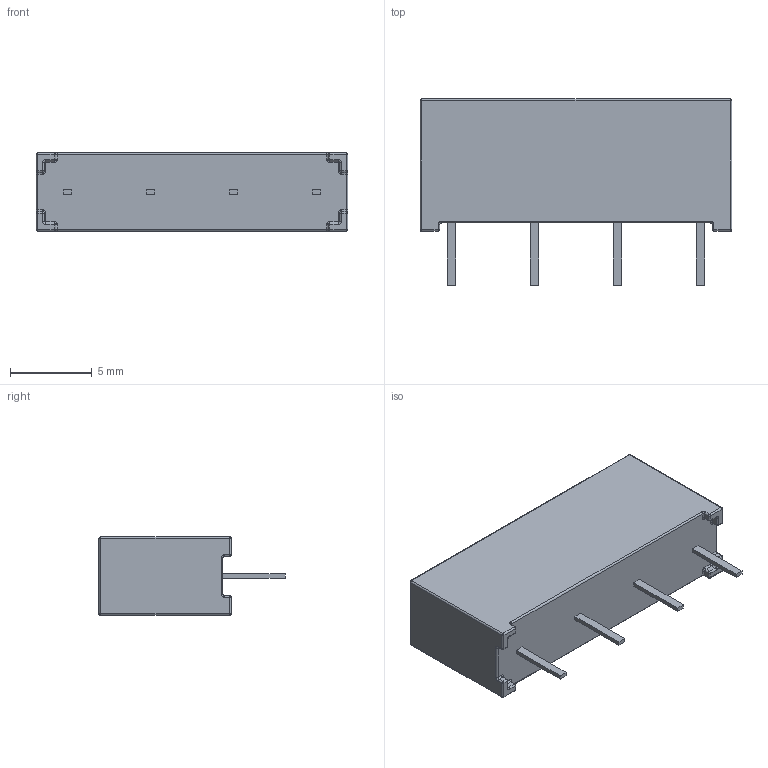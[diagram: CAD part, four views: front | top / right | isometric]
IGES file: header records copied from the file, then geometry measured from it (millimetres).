
Start section: SolidWorks IGES file using analytic representation for surfaces
Global section: file name: C:\Documents and Settings\alex.leming\Desktop\Replacement Models\106-1-A.IGS; native system: SolidWorks 2009; preprocessor: SolidWorks 2009; author: alex.leming; date: 101126.090448; units: millimetre
Bounding box: 19.1 x 11.4 x 4.8 mm (x, y, z)
Surface area: 572.6 mm2 (no closed solid volume)
Topology: 0 solids, 0 shells, 791 faces, 6856 edges, 6828 vertices
Faces by surface type: bspline 691, revolution 100
